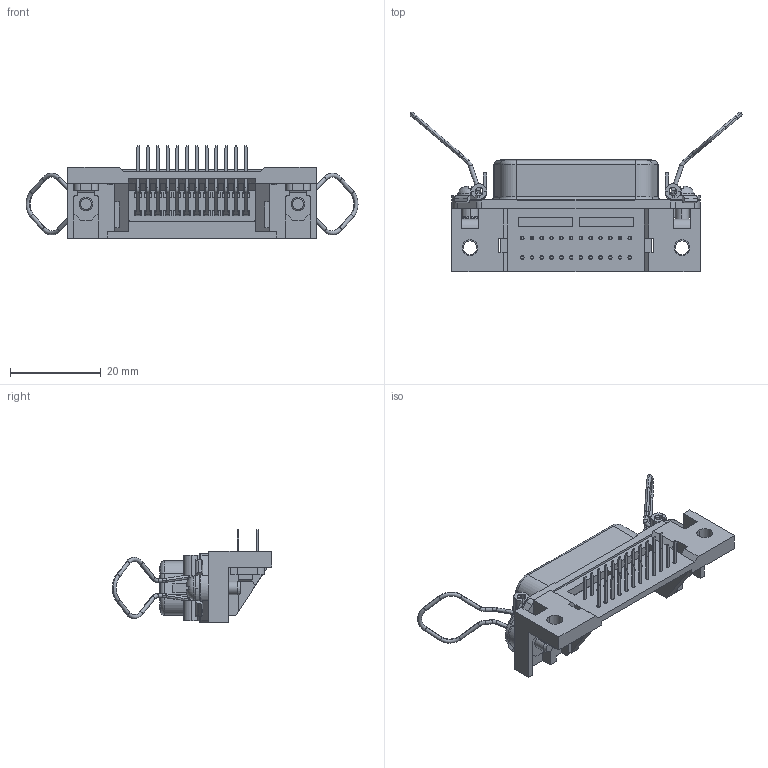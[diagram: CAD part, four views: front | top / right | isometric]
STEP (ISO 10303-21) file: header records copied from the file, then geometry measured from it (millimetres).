
FILE_DESCRIPTION (( 'STEP AP214' ), '1' );
FILE_NAME ('57LE-40240-7700(D12)-FA.STEP', '2020-09-10T06:26:19', ( '' ), ( '' ), 'SwSTEP 2.0', 'SolidWorks 2018', '' );
FILE_SCHEMA (( 'AUTOMOTIVE_DESIGN' ));
Length unit declared in the file: millimetre
Products named in the file (2): 57LE-40240-7700(D12)-FA; Part2^57LE-40240-7700(D12)-FA
Assembly tree (1 placements, depth 2):
  57LE-40240-7700(D12)-FA
    Part2^57LE-40240-7700(D12)-FA
Bounding box: 73.26 x 35.16 x 20.43 mm (x, y, z)
Volume: 8416.1 mm3; surface area: 10672.6 mm2
Topology: 1 solids, 5 shells, 1428 faces, 3915 edges, 2492 vertices
Faces by surface type: plane 1000, cylinder 290, cone 56, torus 54, bspline 28
Entity records: 45466 total; most frequent: CARTESIAN_POINT 8743, ORIENTED_EDGE 7830, DIRECTION 7458, EDGE_CURVE 3915, LINE 2960, VECTOR 2960, VERTEX_POINT 2492, AXIS2_PLACEMENT_3D 2249
